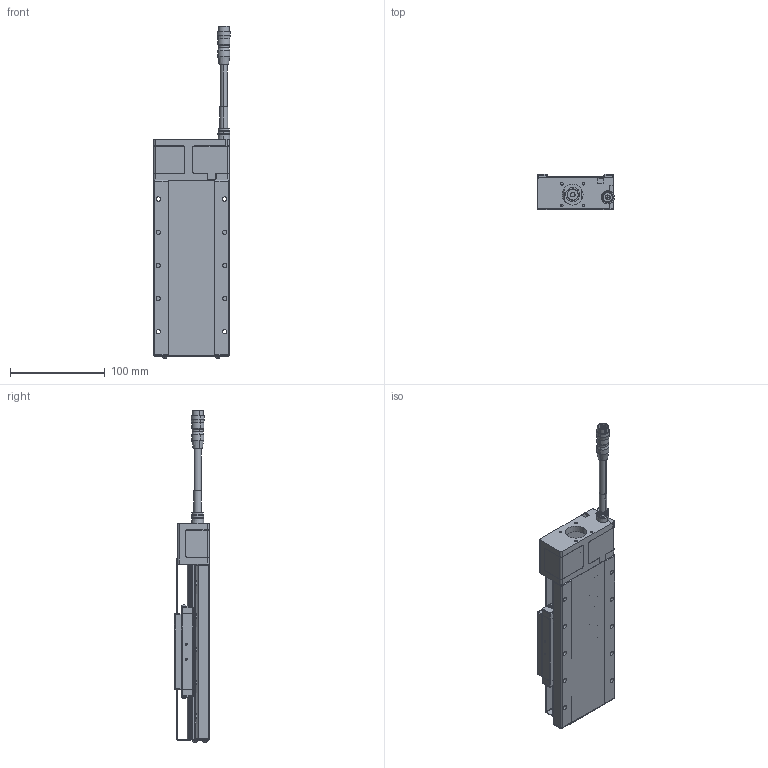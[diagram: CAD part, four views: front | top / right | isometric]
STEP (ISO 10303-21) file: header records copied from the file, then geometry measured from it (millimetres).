
FILE_DESCRIPTION (( 'STEP AP203' ), '1' );
FILE_NAME ('CXC8075-S2?N(µL°¨¹F).S', '2024-01-05T05:27:42', ( '' ), ( '' ), 'SwSTEP 2.0', 'SolidWorks 2019', '' );
FILE_SCHEMA (( 'CONFIG_CONTROL_DESIGN' ));
Length unit declared in the file: millimetre
Products named in the file (9): Group2^CXC8075-S2?N(28框無馬達)_defeature_GMT; CXC80-102; HR10A-10J-12P_帶線示意; CXC8075-S2?N(無馬達); SD03B006_SD03B006-SCM435(化鎳); SG02B005_SCM435(化鎳); CXC8075-S2OPAN-303; Group1^CXC8075-S2?N(28框無馬達)_defeature_GMT; SC04B006_SCM435(化鎳)
Assembly tree (16 placements, depth 2):
  CXC8075-S2?N(無馬達)
    Group1^CXC8075-S2?N(28框無馬達)_defeature_GMT
    Group2^CXC8075-S2?N(28框無馬達)_defeature_GMT
    CXC8075-S2OPAN-303
    CXC80-102  x2
    SG02B005_SCM435(化鎳)  x2
    SC04B006_SCM435(化鎳)  x4
    SD03B006_SD03B006-SCM435(化鎳)  x4
    HR10A-10J-12P_帶線示意
Bounding box: 80.99 x 37 x 350.17 mm (x, y, z)
Volume: 88278.9 mm3; surface area: 157823.9 mm2
Topology: 40 solids, 43 shells, 3782 faces, 9481 edges, 5716 vertices
Faces by surface type: plane 1239, cylinder 1231, cone 629, torus 306, sphere 204, bspline 173
Entity records: 112516 total; most frequent: CARTESIAN_POINT 27002, DIRECTION 18831, ORIENTED_EDGE 17264, EDGE_CURVE 8632, AXIS2_PLACEMENT_3D 7422, VERTEX_POINT 5297, CIRCLE 4072, LINE 3987
